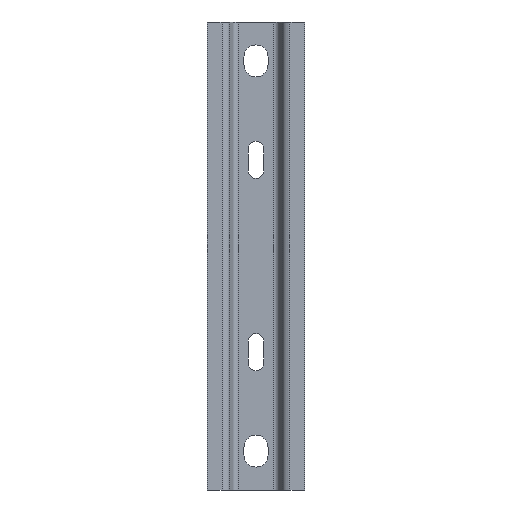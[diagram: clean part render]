
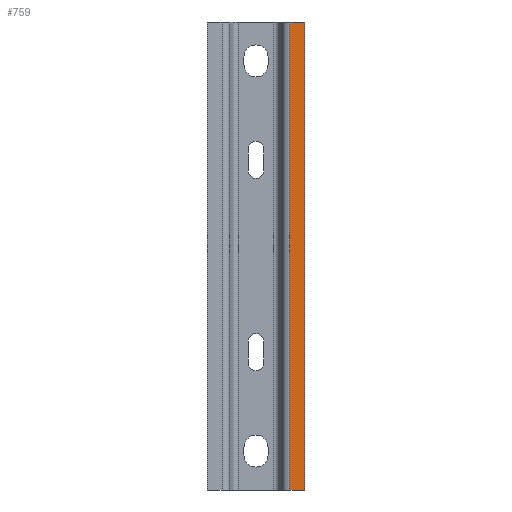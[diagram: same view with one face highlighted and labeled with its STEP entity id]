
A CAD part, front view. The second image highlights one B-rep face of the part: STEP entity #759.
In plain terms, the highlighted planar face has unit normal (0, -1, 0).
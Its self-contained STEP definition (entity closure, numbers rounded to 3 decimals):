
#41 = VECTOR ( 'NONE', #1222, 1000. ) ;
#79 = CARTESIAN_POINT ( 'NONE',  ( 16., -11., 250. ) ) ;
#115 = DIRECTION ( 'NONE',  ( 1., 0., 0. ) ) ;
#187 = CARTESIAN_POINT ( 'NONE',  ( 26., -11., 250. ) ) ;
#227 = CARTESIAN_POINT ( 'NONE',  ( 18.114, -11., 250. ) ) ;
#246 = EDGE_CURVE ( 'NONE', #692, #924, #1444, .T. ) ;
#247 = CARTESIAN_POINT ( 'NONE',  ( 18.114, -11., 250. ) ) ;
#263 = CARTESIAN_POINT ( 'NONE',  ( 16., -11., 0. ) ) ;
#345 = CARTESIAN_POINT ( 'NONE',  ( 26., -11., 250. ) ) ;
#547 = DIRECTION ( 'NONE',  ( 1., 0., 0. ) ) ;
#557 = EDGE_CURVE ( 'NONE', #692, #576, #703, .T. ) ;
#576 = VERTEX_POINT ( 'NONE', #187 ) ;
#586 = VECTOR ( 'NONE', #547, 1000. ) ;
#595 = ORIENTED_EDGE ( 'NONE', *, *, #1482, .T. ) ;
#598 = CARTESIAN_POINT ( 'NONE',  ( 26., -11., 0. ) ) ;
#662 = VERTEX_POINT ( 'NONE', #598 ) ;
#673 = CARTESIAN_POINT ( 'NONE',  ( 18.114, -11., 0. ) ) ;
#692 = VERTEX_POINT ( 'NONE', #227 ) ;
#703 = LINE ( 'NONE', #79, #586 ) ;
#744 = DIRECTION ( 'NONE',  ( -1., 0., 0. ) ) ;
#759 = ADVANCED_FACE ( 'NONE', ( #1382 ), #768, .F. ) ;
#760 = CARTESIAN_POINT ( 'NONE',  ( 16., -11., 250. ) ) ;
#768 = PLANE ( 'NONE',  #1167 ) ;
#924 = VERTEX_POINT ( 'NONE', #673 ) ;
#963 = DIRECTION ( 'NONE',  ( 0., 0., -1. ) ) ;
#998 = DIRECTION ( 'NONE',  ( 0., 1., 0. ) ) ;
#1013 = EDGE_CURVE ( 'NONE', #576, #662, #1228, .T. ) ;
#1044 = ORIENTED_EDGE ( 'NONE', *, *, #557, .F. ) ;
#1103 = LINE ( 'NONE', #263, #1293 ) ;
#1167 = AXIS2_PLACEMENT_3D ( 'NONE', #760, #998, #744 ) ;
#1222 = DIRECTION ( 'NONE',  ( 0., 0., -1. ) ) ;
#1228 = LINE ( 'NONE', #345, #41 ) ;
#1230 = EDGE_LOOP ( 'NONE', ( #595, #1432, #1044, #1565 ) ) ;
#1293 = VECTOR ( 'NONE', #115, 1000. ) ;
#1382 = FACE_OUTER_BOUND ( 'NONE', #1230, .T. ) ;
#1432 = ORIENTED_EDGE ( 'NONE', *, *, #1013, .F. ) ;
#1444 = LINE ( 'NONE', #247, #1494 ) ;
#1482 = EDGE_CURVE ( 'NONE', #924, #662, #1103, .T. ) ;
#1494 = VECTOR ( 'NONE', #963, 1000. ) ;
#1565 = ORIENTED_EDGE ( 'NONE', *, *, #246, .T. ) ;
